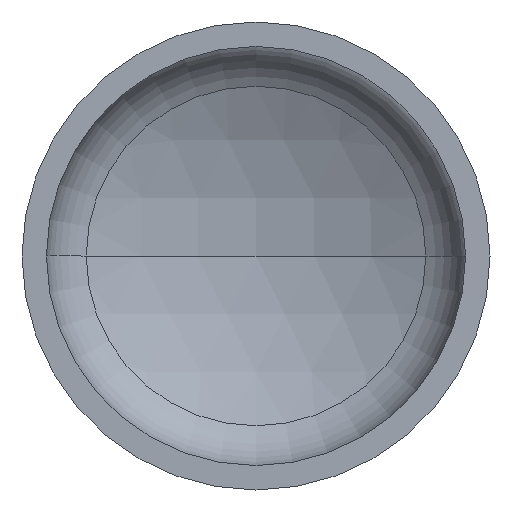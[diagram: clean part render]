
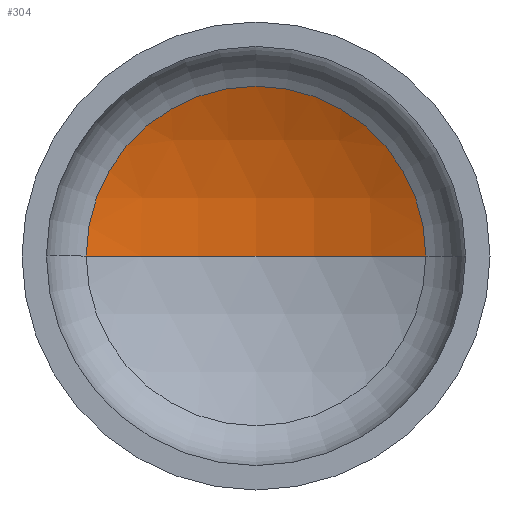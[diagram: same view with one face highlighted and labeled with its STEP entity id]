
A CAD part, front view. The second image highlights one B-rep face of the part: STEP entity #304.
In plain terms, the highlighted spherical face has radius 720 mm.
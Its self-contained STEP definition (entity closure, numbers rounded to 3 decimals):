
#11 = AXIS2_PLACEMENT_3D ( 'NONE', #219, #263, #260 ) ;
#28 = ORIENTED_EDGE ( 'NONE', *, *, #240, .T. ) ;
#29 = AXIS2_PLACEMENT_3D ( 'NONE', #216, #213, #214 ) ;
#30 = AXIS2_PLACEMENT_3D ( 'NONE', #302, #301, #232 ) ;
#38 = ORIENTED_EDGE ( 'NONE', *, *, #107, .F. ) ;
#60 = CIRCLE ( 'NONE', #29, 720. ) ;
#74 = ORIENTED_EDGE ( 'NONE', *, *, #110, .T. ) ;
#90 = VERTEX_POINT ( 'NONE', #211 ) ;
#94 = VERTEX_POINT ( 'NONE', #309 ) ;
#107 = EDGE_CURVE ( 'NONE', #94, #90, #251, .T. ) ;
#110 = EDGE_CURVE ( 'NONE', #94, #336, #60, .T. ) ;
#114 = CARTESIAN_POINT ( 'NONE',  ( 0., -366.944, 0. ) ) ;
#120 = EDGE_LOOP ( 'NONE', ( #38, #74, #28 ) ) ;
#211 = CARTESIAN_POINT ( 'NONE',  ( -326.483, 274.78, 0. ) ) ;
#213 = DIRECTION ( 'NONE',  ( 0., 0., -1. ) ) ;
#214 = DIRECTION ( 'NONE',  ( -1., 0., 0. ) ) ;
#216 = CARTESIAN_POINT ( 'NONE',  ( 0., -366.944, 0. ) ) ;
#219 = CARTESIAN_POINT ( 'NONE',  ( 0., 274.78, 0. ) ) ;
#225 = FACE_OUTER_BOUND ( 'NONE', #120, .T. ) ;
#229 = CIRCLE ( 'NONE', #11, 326.483 ) ;
#232 = DIRECTION ( 'NONE',  ( 1., 0., 0. ) ) ;
#240 = EDGE_CURVE ( 'NONE', #336, #90, #229, .T. ) ;
#244 = DIRECTION ( 'NONE',  ( 0., 0., -1. ) ) ;
#251 = CIRCLE ( 'NONE', #30, 720. ) ;
#260 = DIRECTION ( 'NONE',  ( 1., 0., 0. ) ) ;
#263 = DIRECTION ( 'NONE',  ( 0., -1., 0. ) ) ;
#301 = DIRECTION ( 'NONE',  ( 0., 0., 1. ) ) ;
#302 = CARTESIAN_POINT ( 'NONE',  ( 0., -366.944, 0. ) ) ;
#304 = ADVANCED_FACE ( 'NONE', ( #225 ), #401, .F. ) ;
#309 = CARTESIAN_POINT ( 'NONE',  ( 0., 353.056, 0. ) ) ;
#334 = AXIS2_PLACEMENT_3D ( 'NONE', #114, #244, #397 ) ;
#336 = VERTEX_POINT ( 'NONE', #384 ) ;
#384 = CARTESIAN_POINT ( 'NONE',  ( 326.483, 274.78, 0. ) ) ;
#397 = DIRECTION ( 'NONE',  ( -1., 0., 0. ) ) ;
#401 = SPHERICAL_SURFACE ( 'NONE', #334, 720. ) ;
